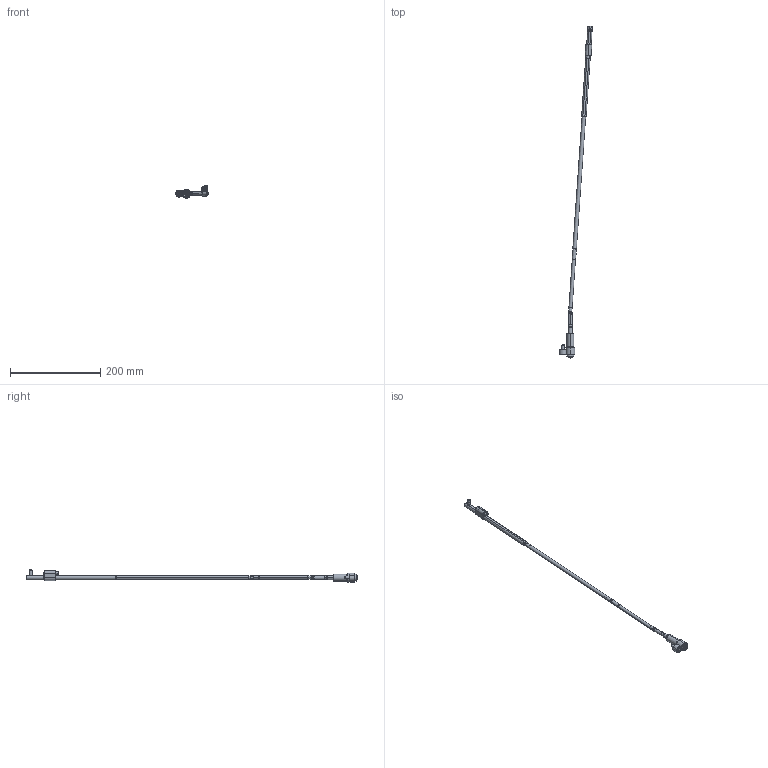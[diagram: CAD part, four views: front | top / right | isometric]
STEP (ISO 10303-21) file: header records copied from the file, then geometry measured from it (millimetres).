
FILE_DESCRIPTION (( 'STEP AP214' ), '1' );
FILE_NAME ('WL080100L-EJE 4°.STEP', '2021-03-19T15:25:04', ( '' ), ( '' ), 'SwSTEP 2.0', 'SolidWorks 2019', '' );
FILE_SCHEMA (( 'AUTOMOTIVE_DESIGN' ));
Length unit declared in the file: millimetre
Products named in the file (17): 9DR2206-TOR; Web-WP08-1; Web-WL08XX-A7_ON-WL080100-4; Web-WL08-F00.SLDPRT; 3IMAN4X2-150_con sello; 1DIN912616_DIN 912 M6 x 16 --- 16C; 1DIN912545_DIN 912 M5 x 50 --- 50C; WL080100-D; Web-WL08-A1; WL080100L-EJE 4°; WL080100-B_WL0800FF; Web-WL08-A3; Web-WL08-A2; WL080100-E; WL080100-B1_WL0800FF-1; WL080100-C; Web-WL08-F01
Assembly tree (16 placements, depth 3):
  WL080100L-EJE 4°
    Web-WP08-1
    Web-WL08XX-A7_ON-WL080100-4
    Web-WL08-A3
    Web-WL08-A2
    Web-WL08-A1
    WL080100-D
    WL080100-C
    WL080100-B_WL0800FF
      WL080100-B1_WL0800FF-1
      3IMAN4X2-150_con sello
    WL080100-E
    9DR2206-TOR
    Web-WL08-F00.SLDPRT
      Web-WL08-F01
      1DIN912545_DIN 912 M5 x 50 --- 50C
      1DIN912616_DIN 912 M6 x 16 --- 16C
Bounding box: 72.78 x 735.79 x 26.9 mm (x, y, z)
Volume: 57313.4 mm3; surface area: 33636 mm2
Topology: 15 solids, 15 shells, 424 faces, 888 edges, 516 vertices
Faces by surface type: plane 132, cylinder 128, cone 116, torus 48
Entity records: 13492 total; most frequent: DIRECTION 2218, CARTESIAN_POINT 2045, ORIENTED_EDGE 1756, AXIS2_PLACEMENT_3D 921, EDGE_CURVE 878, VERTEX_POINT 516, CIRCLE 476, EDGE_LOOP 468
